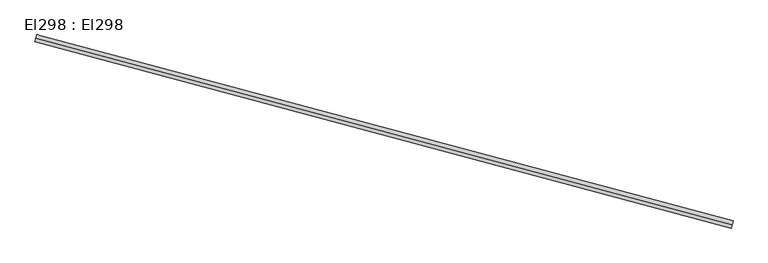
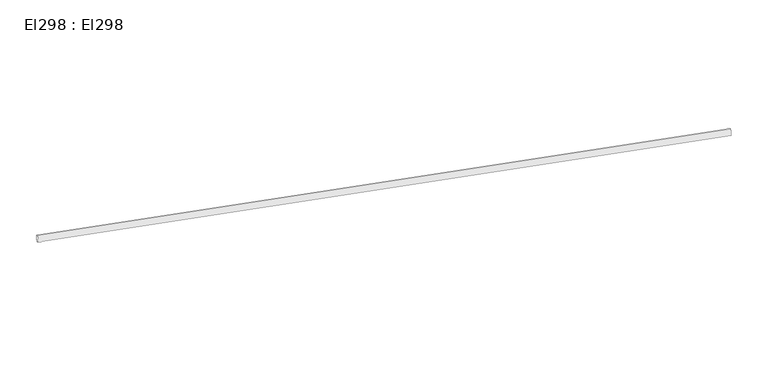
"""IFC4 building model written with IfcOpenShell, lengths in millimetres: cable carrier segment geometry, El298 : El298."""

from ifc_helpers import new_model, si_unit, point, frame, frame_2d, origin, place, context, project, spatial, circle_curve, trimmed, segment, composite_curve, outline, extrude, source, transform, mapped, element, save


def el298_el298_c9eadcff(model_context):
    return source(origin(), model_context, "Body", "SweptSolid", [
        extrude(outline(composite_curve([segment(trimmed(circle_curve(frame_2d((0.0, -9.5)), 9.5), [point((0.0, -19.0))], [point((0.0, 0.0))], False, "CARTESIAN"), True, "CONTINUOUS"), segment(trimmed(circle_curve(frame_2d((0.0, -9.5)), 9.5), [point((0.0, 0.0))], [point((0.0, -19.0))], False, "CARTESIAN"), True, "CONTINUOUS")], self_intersect=False)), frame((20411.1115096, 14281.4506946, 2959.5), z_axis=(-0.9659258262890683, 0.25881904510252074, 0.0), x_axis=(-0.25881904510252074, -0.9659258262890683, 0.0)), (0.0, 0.0, 1.0), 1873.31),
    ])


if __name__ == "__main__":
    model = new_model("IFC4")
    model_context = context("Model", 3, world=origin())
    ifc_project = project(units=[si_unit("LENGTHUNIT", "METRE", prefix="MILLI")], contexts=[model_context])
    site = spatial("IfcSite", under=ifc_project)
    building = spatial("IfcBuilding", under=site)
    placement = place(None, origin())
    el298_el298_shape = el298_el298_c9eadcff(model_context)
    element("IfcCableCarrierSegment", 1, ObjectType="El298 : El298", at=placement, inside=building, context=model_context, shape_type="MappedRepresentation", body=[
        mapped(el298_el298_shape, transform((0.0, 0.0, 0.0), x_axis=(1.0, 0.0, 0.0), y_axis=(0.0, 1.0, 0.0), z_axis=(0.0, 0.0, 1.0))),
    ])
    save(model, "model.ifc")
